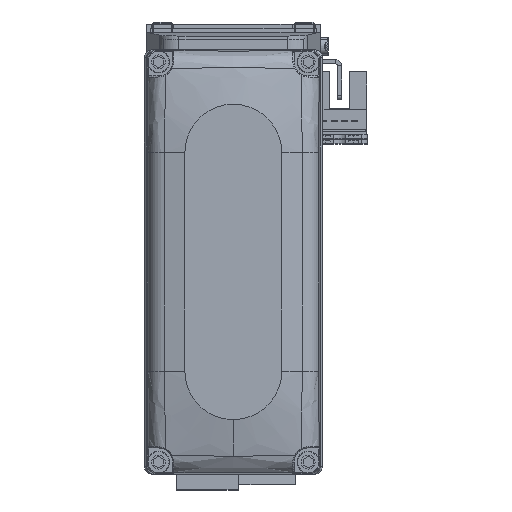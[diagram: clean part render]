
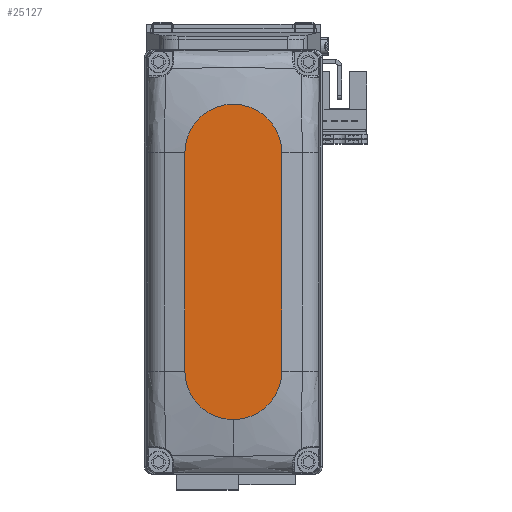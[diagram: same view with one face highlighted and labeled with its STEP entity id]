
A CAD part, top view. The second image highlights one B-rep face of the part: STEP entity #25127.
In plain terms, the highlighted planar face has unit normal (0, 0, 1).
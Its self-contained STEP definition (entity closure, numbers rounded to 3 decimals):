
#191 = ORIENTED_EDGE ( 'NONE', *, *, #34850, .T. ) ;
#1876 = DIRECTION ( 'NONE',  ( 1., 0., 0. ) ) ;
#3398 = VERTEX_POINT ( 'NONE', #30907 ) ;
#3536 = DIRECTION ( 'NONE',  ( -1., 0., 0. ) ) ;
#3672 = LINE ( 'NONE', #16087, #13309 ) ;
#3736 = ORIENTED_EDGE ( 'NONE', *, *, #23795, .T. ) ;
#3828 = VERTEX_POINT ( 'NONE', #25481 ) ;
#4338 = CARTESIAN_POINT ( 'NONE',  ( -27., 0., 25. ) ) ;
#5049 = EDGE_CURVE ( 'NONE', #10704, #25832, #19017, .T. ) ;
#6142 = CARTESIAN_POINT ( 'NONE',  ( -27., 12., 25. ) ) ;
#6445 = DIRECTION ( 'NONE',  ( 0., 0., 1. ) ) ;
#8011 = DIRECTION ( 'NONE',  ( 1., 0., 0. ) ) ;
#9523 = CIRCLE ( 'NONE', #14732, 12. ) ;
#10704 = VERTEX_POINT ( 'NONE', #24028 ) ;
#10857 = EDGE_LOOP ( 'NONE', ( #31262, #3736, #191, #35566, #39225 ) ) ;
#11067 = PLANE ( 'NONE',  #21333 ) ;
#12330 = CIRCLE ( 'NONE', #35131, 12. ) ;
#13309 = VECTOR ( 'NONE', #28540, 1000. ) ;
#14732 = AXIS2_PLACEMENT_3D ( 'NONE', #34383, #6445, #18861 ) ;
#16087 = CARTESIAN_POINT ( 'NONE',  ( -27., -12., 25. ) ) ;
#16757 = DIRECTION ( 'NONE',  ( 0., 0., 1. ) ) ;
#16798 = AXIS2_PLACEMENT_3D ( 'NONE', #4338, #16757, #29218 ) ;
#17345 = CARTESIAN_POINT ( 'NONE',  ( 27., 0., 25. ) ) ;
#18861 = DIRECTION ( 'NONE',  ( 1., 0., 0. ) ) ;
#19017 = LINE ( 'NONE', #31474, #36879 ) ;
#21333 = AXIS2_PLACEMENT_3D ( 'NONE', #23502, #35957, #8011 ) ;
#22047 = EDGE_CURVE ( 'NONE', #22693, #3398, #9523, .T. ) ;
#22693 = VERTEX_POINT ( 'NONE', #39973 ) ;
#23502 = CARTESIAN_POINT ( 'NONE',  ( 0., 0., 25. ) ) ;
#23795 = EDGE_CURVE ( 'NONE', #25832, #3828, #34404, .T. ) ;
#24028 = CARTESIAN_POINT ( 'NONE',  ( 27., 12., 25. ) ) ;
#25127 = ADVANCED_FACE ( 'NONE', ( #39010 ), #11067, .T. ) ;
#25481 = CARTESIAN_POINT ( 'NONE',  ( -27., -12., 25. ) ) ;
#25832 = VERTEX_POINT ( 'NONE', #6142 ) ;
#28540 = DIRECTION ( 'NONE',  ( 1., 0., 0. ) ) ;
#28582 = EDGE_CURVE ( 'NONE', #3398, #10704, #12330, .T. ) ;
#29218 = DIRECTION ( 'NONE',  ( 1., 0., 0. ) ) ;
#29804 = DIRECTION ( 'NONE',  ( 0., 0., 1. ) ) ;
#30907 = CARTESIAN_POINT ( 'NONE',  ( 39., 0., 25. ) ) ;
#31262 = ORIENTED_EDGE ( 'NONE', *, *, #5049, .T. ) ;
#31474 = CARTESIAN_POINT ( 'NONE',  ( -27., 12., 25. ) ) ;
#34383 = CARTESIAN_POINT ( 'NONE',  ( 27., 0., 25. ) ) ;
#34404 = CIRCLE ( 'NONE', #16798, 12. ) ;
#34850 = EDGE_CURVE ( 'NONE', #3828, #22693, #3672, .T. ) ;
#35131 = AXIS2_PLACEMENT_3D ( 'NONE', #17345, #29804, #1876 ) ;
#35566 = ORIENTED_EDGE ( 'NONE', *, *, #22047, .T. ) ;
#35957 = DIRECTION ( 'NONE',  ( 0., 0., 1. ) ) ;
#36879 = VECTOR ( 'NONE', #3536, 1000. ) ;
#39010 = FACE_OUTER_BOUND ( 'NONE', #10857, .T. ) ;
#39225 = ORIENTED_EDGE ( 'NONE', *, *, #28582, .T. ) ;
#39973 = CARTESIAN_POINT ( 'NONE',  ( 27., -12., 25. ) ) ;
